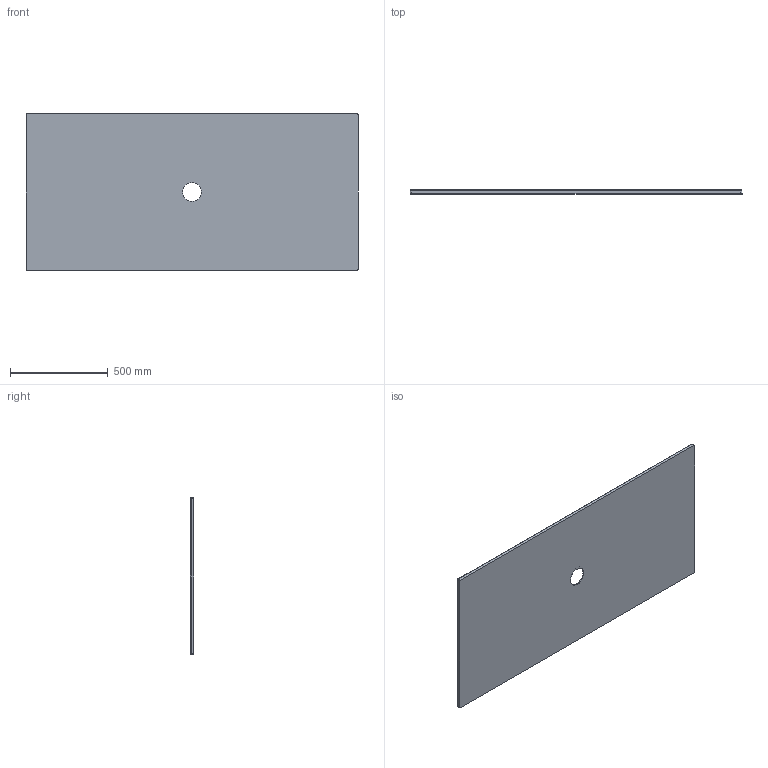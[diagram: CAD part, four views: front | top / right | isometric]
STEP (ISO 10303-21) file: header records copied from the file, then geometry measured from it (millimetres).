
FILE_DESCRIPTION (( 'STEP AP203' ), '1' );
FILE_NAME ('SDPD17008020.STEP', '2023-04-03T08:26:12', ( '' ), ( '' ), 'SwSTEP 2.0', 'SolidWorks 2023', '' );
FILE_SCHEMA (( 'CONFIG_CONTROL_DESIGN' ));
Length unit declared in the file: millimetre
Products named in the file (1): SDPD17008020
Bounding box: 1700 x 20 x 800 mm (x, y, z)
Volume: 22866289.2 mm3; surface area: 2783725.8 mm2
Topology: 1 solids, 1 shells, 26 faces, 62 edges, 40 vertices
Faces by surface type: cylinder 9, plane 8, bspline 8, cone 1
Full cylindrical faces by diameter (mm): 95 x1
Entity records: 4185 total; most frequent: CARTESIAN_POINT 3600, ORIENTED_EDGE 104, DIRECTION 92, EDGE_CURVE 52, VERTEX_POINT 36, AXIS2_PLACEMENT_3D 36, EDGE_LOOP 36, FACE_OUTER_BOUND 31
